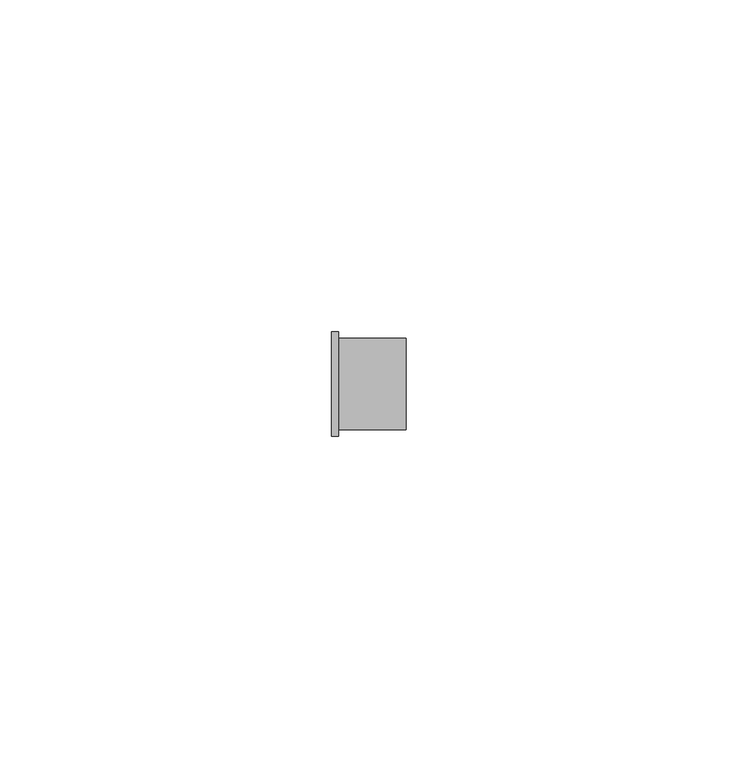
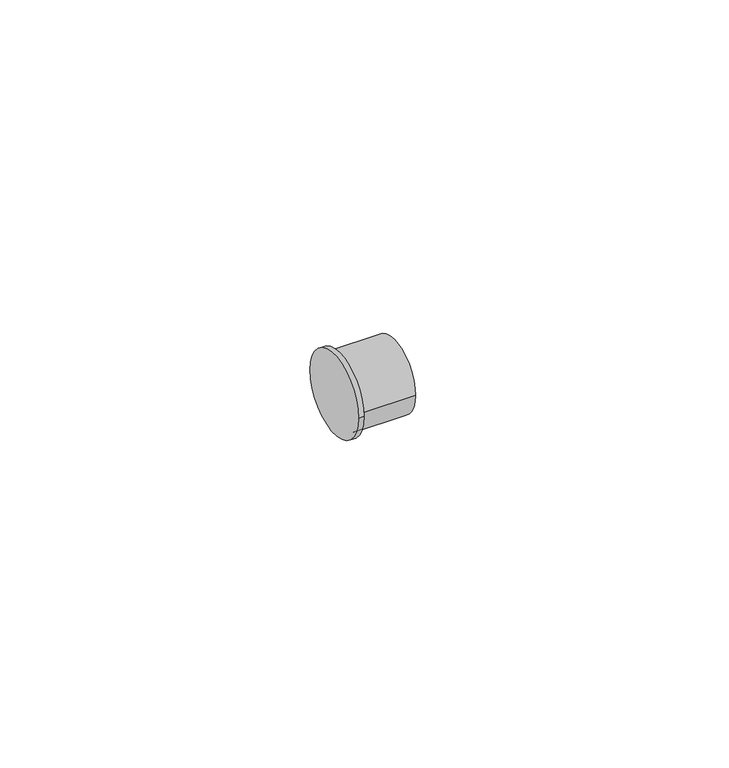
"""IFC4 building model written with IfcOpenShell, lengths in millimetres: pipe fitting geometry, Bucha de redução reta - Soldada - CU : Padrão."""

from ifc_helpers import new_model, si_unit, frame, origin, place, context, project, spatial, circle_curve, source, transform, mapped, element, save
from ifc_brep_helpers import plane_surface, cylinder_surface, advanced_brep


def pipe_fitting_9b3d5eb9(model_context):
    return source(origin(), model_context, "Body", "AdvancedBrep", [
        advanced_brep(
        [(0.0, -7.835, 0.0), (0.0, 7.835, 0.0), (1.0, -7.835, 0.0), (1.0, 7.835, 0.0), (1.0, -6.877, 0.0), (1.0, 6.877, 0.0), (11.169, -6.877, 0.0), (11.169, 6.877, 0.0)],
        [
            (0, 1, circle_curve(frame((0.0, 0.0, 0.0), z_axis=(-1.0, 0.0, 0.0), x_axis=(0.0, 1.0, 0.0)), 7.835)),
            (1, 0, circle_curve(frame((0.0, 0.0, 0.0), z_axis=(-1.0, 0.0, 0.0), x_axis=(0.0, 1.0, 0.0)), 7.835)),
            (2, 3, circle_curve(frame((1.0, 0.0, 0.0), z_axis=(1.0, 0.0, 0.0), x_axis=(0.0, 1.0, 0.0)), 7.835)),
            (3, 2, circle_curve(frame((1.0, 0.0, 0.0), z_axis=(1.0, 0.0, 0.0), x_axis=(0.0, 1.0, 0.0)), 7.835)),
            (4, 5, circle_curve(frame((1.0, 0.0, 0.0), z_axis=(-1.0, 0.0, 0.0), x_axis=(0.0, 1.0, 0.0)), 6.877)),
            (5, 4, circle_curve(frame((1.0, 0.0, 0.0), z_axis=(-1.0, 0.0, 0.0), x_axis=(0.0, 1.0, 0.0)), 6.877)),
            (0, 2),
            (3, 1),
            (6, 7, circle_curve(frame((11.169, 0.0, 0.0), z_axis=(1.0, 0.0, 0.0), x_axis=(0.0, 1.0, 0.0)), 6.877)),
            (7, 6, circle_curve(frame((11.169, 0.0, 0.0), z_axis=(1.0, 0.0, 0.0), x_axis=(0.0, 1.0, 0.0)), 6.877)),
            (7, 5),
            (4, 6),
        ],
        [
            plane_surface(frame((0.0, 0.0, 0.0), z_axis=(-1.0, 0.0, 0.0), x_axis=(0.0, 0.0, 1.0))),
            plane_surface(frame((1.0, 0.0, 0.0), z_axis=(1.0, 0.0, 0.0), x_axis=(0.0, 0.0, 1.0))),
            cylinder_surface(frame((0.0, 0.0, 0.0), z_axis=(-1.0, 0.0, 0.0), x_axis=(0.0, 1.0, 0.0)), 7.835),
            plane_surface(frame((11.169, 0.0, 0.0), z_axis=(1.0, 0.0, 0.0), x_axis=(0.0, 0.0, 1.0))),
            cylinder_surface(frame((1.0, 0.0, 0.0), z_axis=(-1.0, 0.0, 0.0), x_axis=(0.0, 1.0, 0.0)), 6.877),
        ],
        [
            (0, [[1, 2]]),
            (1, [[3, 4], [5, 6]]),
            (2, [[-1, 7, -4, 8]]),
            (2, [[-2, -8, -3, -7]]),
            (3, [[9, 10]]),
            (4, [[-10, 11, -5, 12]]),
            (4, [[-9, -12, -6, -11]]),
        ],
    ),
    ])


if __name__ == "__main__":
    model = new_model("IFC4")
    model_context = context("Model", 3, world=origin())
    ifc_project = project(units=[si_unit("LENGTHUNIT", "METRE", prefix="MILLI")], contexts=[model_context])
    site = spatial("IfcSite", under=ifc_project)
    building = spatial("IfcBuilding", under=site)
    placement = place(None, origin())
    pipe_fitting_shape = pipe_fitting_9b3d5eb9(model_context)
    element("IfcPipeFitting", 1, ObjectType="Bucha de redução reta - Soldada - CU : Padrão", at=placement, inside=building, context=model_context, shape_type="MappedRepresentation", body=[
        mapped(pipe_fitting_shape, transform((0.0, 0.0, 0.0), x_axis=(1.0, 0.0, 0.0), y_axis=(0.0, 1.0, 0.0), z_axis=(0.0, 0.0, 1.0))),
    ])
    save(model, "model.ifc")
